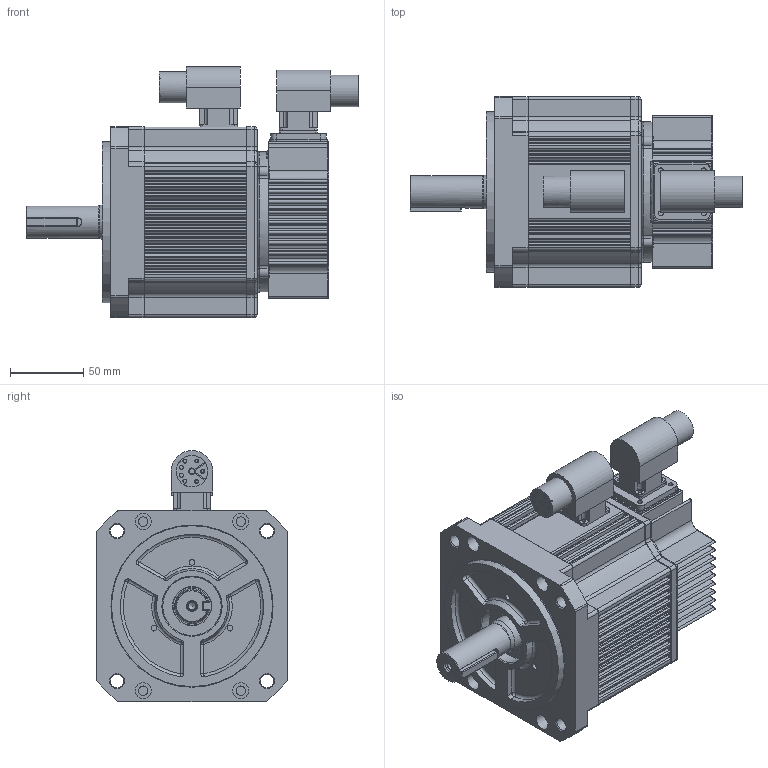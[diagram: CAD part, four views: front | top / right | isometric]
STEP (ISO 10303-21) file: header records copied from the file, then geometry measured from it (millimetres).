
FILE_DESCRIPTION( ( 'Unknown' ), '1' );
FILE_NAME( 'C:/Documents and Settings/leon/桌面/工作資料/3D型錄相關/3D組立圖(給子勤)/stp/DTSB13102C3NGAD0K.stp', 'Unknown', ( 'Unknown' ), ( 'Unknown' ), 'PSStep 14.0', 'Unknown', ' ' );
FILE_SCHEMA( ( 'AUTOMOTIVE_DESIGN { 1 0 10303 214 1 1 1 1 }' ) );
Length unit declared in the file: millimetre
Products named in the file (14): 0S180JXB7BA0P-01; 0S331JXA0BP01-01; Assem1; 軍規(電源); 軍規(譯碼器); 1KW\X2\4EE54E0A752853F05EA\X0\; \X2\8ECD898F96326C34588A724\X0\; \X2\50C5524D7AEF542B937569FD8EF\X0\; \X2\51F8625867B\X0\; \X2\625867B\X0\; \X2\4FDD84CB96326C34588\X0\; \X2\4FDD84C\X0\; \X2\937\X0\
Assembly tree (13 placements, depth 3):
  Assem1
    軍規(電源)
    軍規(譯碼器)
    1KW\X2\4EE54E0A752853F05EA\X0\
    \X2\8ECD898F96326C34588A724\X0\
    \X2\50C5524D7AEF542B937569FD8EF\X0\
    \X2\51F8625867B\X0\
    \X2\51F8625867B\X0\
    \X2\625867B\X0\
    \X2\4FDD84CB96326C34588\X0\
    \X2\4FDD84C\X0\
    \X2\937\X0\
    0S180JXB7BA0P-01
      0S331JXA0BP01-01
Bounding box: 226.9 x 130.4 x 171.6 mm (x, y, z)
Volume: 2206760.9 mm3; surface area: 294666 mm2
Topology: 12 solids, 15 shells, 1395 faces, 3552 edges, 2232 vertices
Faces by surface type: cylinder 639, plane 505, torus 157, cone 59, sphere 28, bspline 7
Full cylindrical faces by diameter (mm): 1.5 x17, 1.926 x2, 1.985 x1, 2.013 x4, 2.459 x4, 2.5 x4, 2.585 x2, 2.611 x2, 2.621 x4, 2.637 x1, 2.7 x8, 2.834 x2, 3 x4, 3.25 x4, 3.5 x4, 3.746 x1, 4 x3, 5 x5, 6.2 x1, 6.5 x8, 9 x4, 11 x4, 20 x2, 21.5 x2, 22 x1, 24 x1, 24.9 x1, 40 x1, 52 x1, 60 x1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
Entity records: 52986 total; most frequent: CARTESIAN_POINT 7741, DIRECTION 7615, ORIENTED_EDGE 6656, EDGE_CURVE 3328, AXIS2_PLACEMENT_3D 2992, VERTEX_POINT 2173, EDGE_LOOP 1666, LINE 1631
